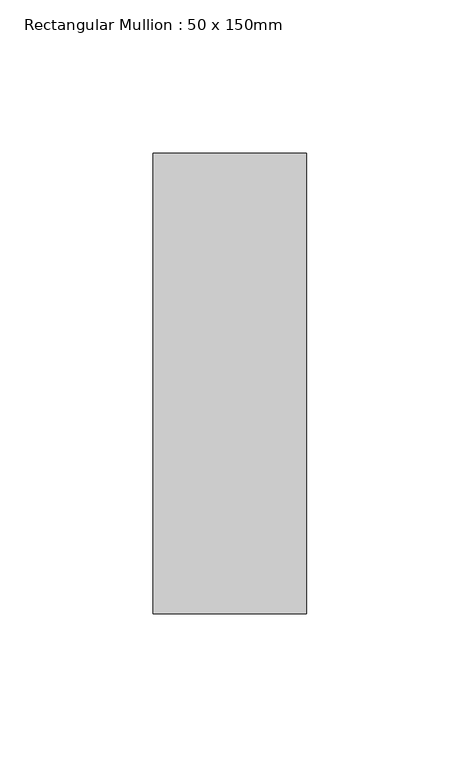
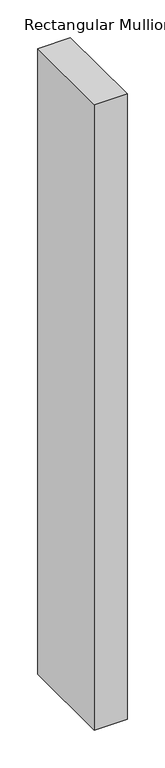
"""IFC4 building model written with IfcOpenShell, lengths in millimetres: member geometry, Rectangular Mullion : 50 x 150mm."""

from ifc_helpers import new_model, si_unit, frame, origin, place, context, project, spatial, polyline, outline, extrude, source, transform, mapped, element, save


def rectangular_mullion_50_x_150mm_524ad4e4(model_context):
    return source(origin(), model_context, "Body", "SweptSolid", [
        extrude(outline(polyline([(25.0, 75.0), (25.0, -75.0), (-25.0, -75.0), (-25.0, 75.0), (25.0, 75.0)])), frame((0.0, 0.0, -1011.4390855), z_axis=(0.0, 0.0, 1.0), x_axis=(1.0, 0.0, 0.0)), (0.0, 0.0, 1.0), 1011.4390855),
    ])


if __name__ == "__main__":
    model = new_model("IFC4")
    model_context = context("Model", 3, world=origin())
    ifc_project = project(units=[si_unit("LENGTHUNIT", "METRE", prefix="MILLI")], contexts=[model_context])
    site = spatial("IfcSite", under=ifc_project)
    building = spatial("IfcBuilding", under=site)
    placement = place(None, origin())
    rectangular_mullion_50_x_150mm_shape = rectangular_mullion_50_x_150mm_524ad4e4(model_context)
    element("IfcMember", 1, ObjectType="Rectangular Mullion : 50 x 150mm", at=placement, inside=building, context=model_context, shape_type="MappedRepresentation", body=[
        mapped(rectangular_mullion_50_x_150mm_shape, transform((0.0, 0.0, 0.0), x_axis=(1.0, 0.0, 0.0), y_axis=(0.0, 1.0, 0.0), z_axis=(0.0, 0.0, 1.0))),
    ])
    save(model, "model.ifc")
